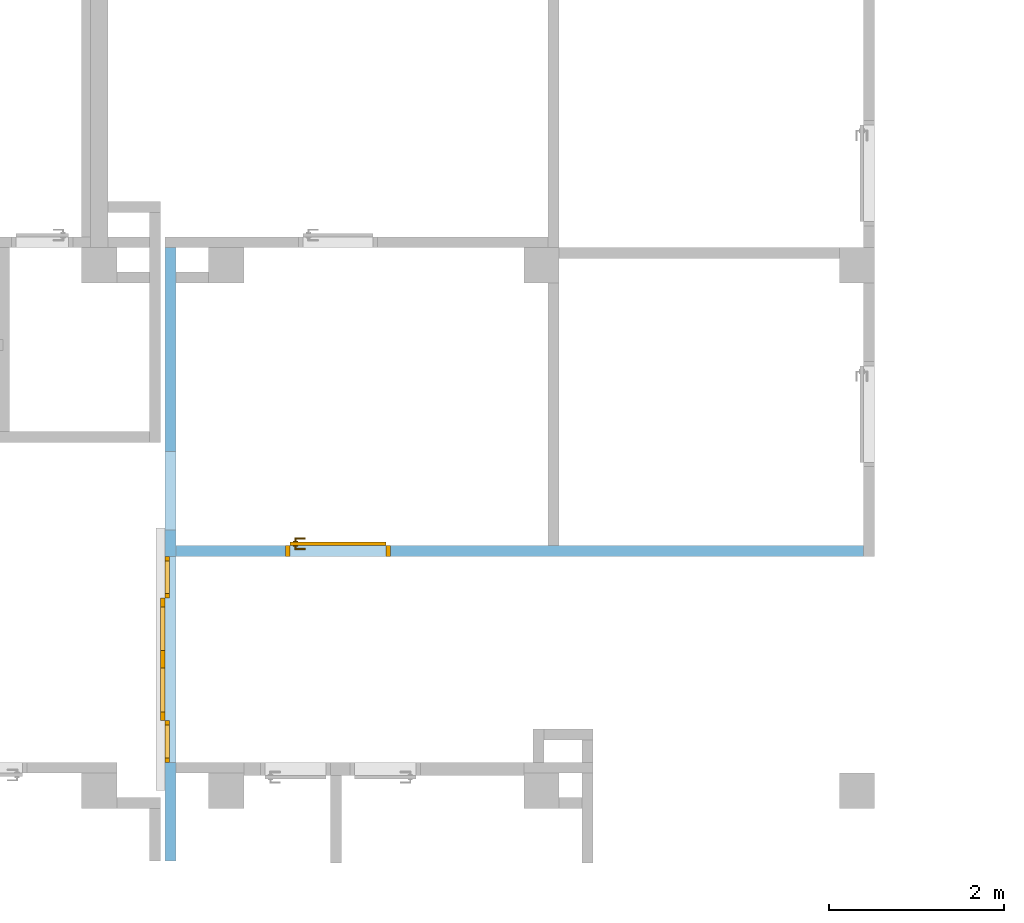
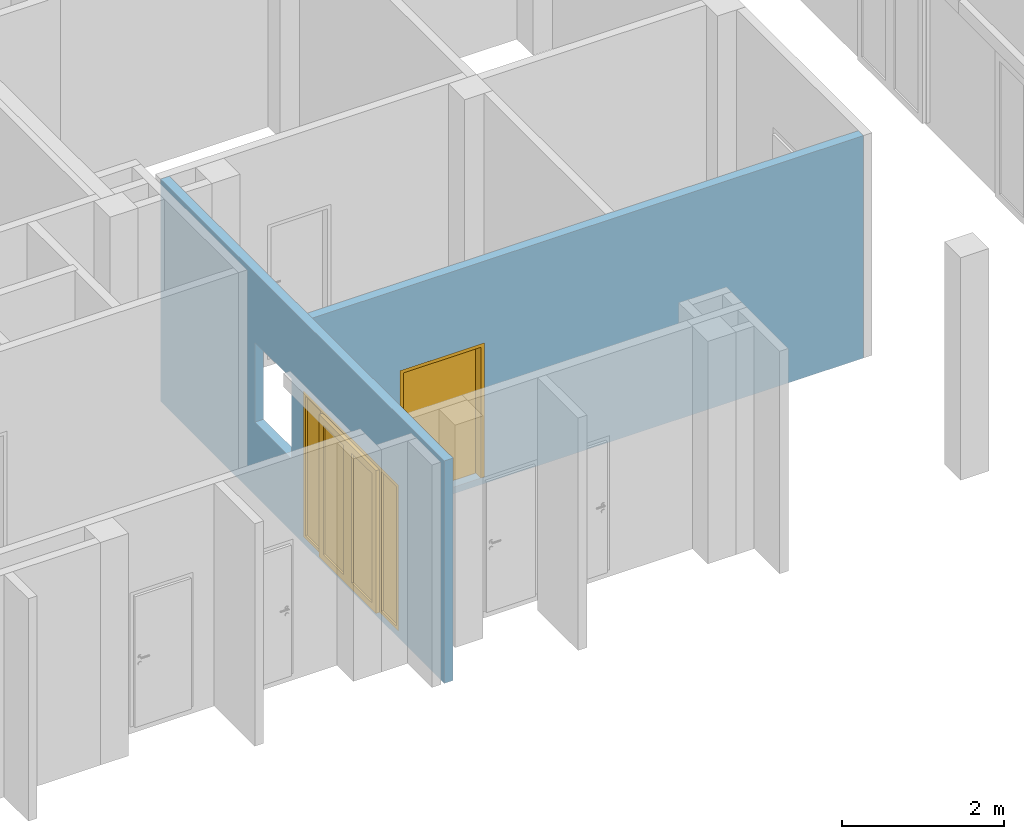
# One storey, part 30 of 37: 2 doors, 3 openings, plus 2 elements that do not belong to this part.
"""IFC4 building model written with IfcOpenShell, lengths in metres."""

from ifc_helpers import new_model, entity, si_unit, converted_unit, derived_unit, frame, frame_2d, origin, origin_with_axes, place, context, subcontext, project, spatial, polyline, rectangle, outline, extrude, closed_shell, open_shell, surface_model, source, transform, mapped, material, layer, layer_set, layer_usage, type_object, element, fill, save


model = new_model("IFC4")

# Units and contexts
model_context = context("Model", 3, precision=1e-05, world=origin())
body_context = subcontext(model_context, "Body", "Model", "MODEL_VIEW")
ifc_project = project(units=[si_unit("LENGTHUNIT", "METRE"), si_unit("AREAUNIT", "SQUARE_METRE"), si_unit("VOLUMEUNIT", "CUBIC_METRE"), si_unit("MASSUNIT", "GRAM", prefix="KILO"), converted_unit("PLANEANGLEUNIT", "DEGREE", entity("IfcPlaneAngleMeasure", 0.0174532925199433), si_unit("PLANEANGLEUNIT", "RADIAN"), dimensions=[0, 0, 0, 0, 0, 0, 0]), derived_unit("THERMALTRANSMITTANCEUNIT", [(si_unit("POWERUNIT", "WATT"), 1), (si_unit("THERMODYNAMICTEMPERATUREUNIT", "KELVIN"), -1), (si_unit("LENGTHUNIT", "METRE"), -2)]), derived_unit("VOLUMETRICFLOWRATEUNIT", [(si_unit("LENGTHUNIT", "METRE"), 3), (converted_unit("TIMEUNIT", "hour", entity("IfcTimeMeasure", 3600.0), si_unit("TIMEUNIT", "SECOND"), dimensions=[0, 0, 1, 0, 0, 0, 0]), -1), (si_unit("LENGTHUNIT", "METRE"), -1)])], contexts=[model_context])

# Site, building, storey
site_placement = place(None, origin())
site = spatial("IfcSite", under=ifc_project, at=site_placement, Name="3. ASŘ", CompositionType="ELEMENT")
building_placement = place(site_placement, origin())
building = spatial("IfcBuilding", under=site, at=building_placement, Name="Pavilon B", CompositionType="ELEMENT")
storey_placement = place(building_placement, origin())
storey = spatial("IfcBuildingStorey", under=building, at=storey_placement, Name="Půdorys 1.NP", CompositionType="ELEMENT", Elevation=0.0)

# Wall, opening, door
ifc_material_1 = material(Name="ZDIVO Z CDm")
ifc_layer_1 = layer(ifc_material_1, 0.125)
ifc_layer_set_1 = layer_set([ifc_layer_1])
ifc_layer_usage_1 = layer_usage(ifc_layer_set_1, "AXIS2", "POSITIVE", 0.0)
wall_1_placement = place(storey_placement, frame((40.525, -24.8, -0.1), z_axis=(0.0, 0.0, 1.0), x_axis=(-1.0, 0.0, 0.0)))
wall_1 = element("IfcWall", 1, at=wall_1_placement, inside=storey, material=ifc_layer_usage_1, Name="ZDIVO Z CDm", context=body_context, shape_type="SweptSolid", body=[
    extrude(rectangle(XDim=7.85, YDim=0.125, at=frame_2d((3.925, 0.0625), x_axis=(1.0, 0.0))), origin_with_axes(), (0.0, 0.0, 1.0), 3.35),
])
opening_1_placement = place(wall_1_placement, frame((5.4, 0.0, 0.1), z_axis=(0.0, 1.0, 0.0), x_axis=(0.0, 0.0, 1.0)))
opening_1 = element("IfcOpeningElement", 2, at=opening_1_placement, cuts=wall_1, Name="Dveřní otvor", ObjectType="Opening", context=body_context, shape_type="SweptSolid", body=[
    extrude(outline(polyline([(0.0, 1.2), (2.02, 1.2), (2.02, 0.0), (0.0, 0.0), (0.0, 1.2)])), origin_with_axes(), (0.0, 0.0, 1.0), 0.125),
])
door_type_1 = type_object("IfcDoorType", Name="D101", OperationType="NOTDEFINED", ParameterTakesPrecedence=False, PredefinedType="DOOR")
shared_shape_1 = source(origin_with_axes(), body_context, "Body", "SurfaceModel", [
    surface_model("IfcShellBasedSurfaceModel", [(0.0, 0.125, 2.02), (0.0, 0.125, -7.65404249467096e-18), (0.05, 0.125, -7.65404249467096e-18), (0.05, 0.125, 2.02), (0.0, 0.0, 7.65404249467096e-18), (0.0, 2.41584530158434e-16, 2.02), (0.05, 2.41584530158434e-16, 2.02), (0.05, 0.0, 7.65404249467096e-18)], [closed_shell([[[0, 1, 2, 3]], [[4, 5, 6, 7]], [[1, 0, 5, 4]], [[2, 1, 4, 7]], [[3, 2, 7, 6]], [[0, 3, 6, 5]]], orient=[[False], [False], [False], [False], [False], [False]])]),
    surface_model("IfcShellBasedSurfaceModel", [(1.15, 0.125, 2.02), (1.15, 0.125, -7.65404249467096e-18), (1.2, 0.125, -7.65404249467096e-18), (1.2, 0.125, 2.02), (1.15, 0.0, 7.65404249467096e-18), (1.15, 2.41584530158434e-16, 2.02), (1.2, 2.41584530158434e-16, 2.02), (1.2, 0.0, 7.65404249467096e-18)], [closed_shell([[[0, 1, 2, 3]], [[4, 5, 6, 7]], [[1, 0, 5, 4]], [[2, 1, 4, 7]], [[3, 2, 7, 6]], [[0, 3, 6, 5]]], orient=[[False], [False], [False], [False], [False], [False]])]),
    surface_model("IfcShellBasedSurfaceModel", [(0.05, 0.125, 2.02), (0.05, 0.125, 1.97), (1.15, 0.125, 1.97), (1.15, 0.125, 2.02), (0.05, 2.41584530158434e-16, 1.97), (0.05, 2.41584530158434e-16, 2.02), (1.15, 2.41584530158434e-16, 2.02), (1.15, 2.41584530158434e-16, 1.97)], [closed_shell([[[0, 1, 2, 3]], [[4, 5, 6, 7]], [[1, 0, 5, 4]], [[2, 1, 4, 7]], [[3, 2, 7, 6]], [[0, 3, 6, 5]]], orient=[[False], [False], [False], [False], [False], [False]])]),
    surface_model("IfcShellBasedSurfaceModel", [(0.05, 0.165, 1.97), (0.05, 0.165, -1.25526296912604e-17), (1.15, 0.165, -1.25526296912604e-17), (1.15, 0.165, 1.97), (0.05, 0.125, -7.65404249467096e-18), (0.05, 0.125, 1.97), (1.15, 0.125, 1.97), (1.15, 0.125, -7.65404249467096e-18)], [closed_shell([[[0, 1, 2, 3]], [[4, 5, 6, 7]], [[1, 0, 5, 4]], [[2, 1, 4, 7]], [[3, 2, 7, 6]], [[0, 3, 6, 5]]], orient=[[False], [False], [False], [False], [False], [False]])]),
    surface_model("IfcShellBasedSurfaceModel", [(1.10881569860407, 0.125, 0.93625), (1.1125, 0.125, 0.95), (1.10881569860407, 0.125, 0.96375), (1.09875, 0.125, 0.973815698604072), (1.085, 0.125, 0.9775), (1.07125, 0.125, 0.973815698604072), (1.06118430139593, 0.125, 0.96375), (1.0575, 0.125, 0.95), (1.06118430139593, 0.125, 0.93625), (1.07125, 0.125, 0.926184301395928), (1.085, 0.125, 0.9225), (1.09875, 0.125, 0.926184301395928), (1.1125, 0.1125, 0.95), (1.10881569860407, 0.1125, 0.93625), (1.09875, 0.1125, 0.926184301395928), (1.085, 0.1125, 0.9225), (1.07125, 0.1125, 0.926184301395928), (1.06118430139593, 0.1125, 0.93625), (1.0575, 0.1125, 0.95), (1.06118430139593, 0.1125, 0.96375), (1.07125, 0.1125, 0.973815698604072), (1.085, 0.1125, 0.9775), (1.09875, 0.1125, 0.973815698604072), (1.10881569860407, 0.1125, 0.96375)], [closed_shell([[[0, 1, 2, 3, 4, 5, 6, 7, 8, 9, 10, 11]], [[12, 13, 14, 15, 16, 17, 18, 19, 20, 21, 22, 23]], [[1, 0, 13, 12]], [[2, 1, 12, 23]], [[3, 2, 23, 22]], [[4, 3, 22, 21]], [[5, 4, 21, 20]], [[6, 5, 20, 19]], [[7, 6, 19, 18]], [[8, 7, 18, 17]], [[9, 8, 17, 16]], [[10, 9, 16, 15]], [[11, 10, 15, 14]], [[0, 11, 14, 13]]], orient=[[False], [False], [False], [False], [False], [False], [False], [False], [False], [False], [False], [False], [False], [False]])]),
    surface_model("IfcShellBasedSurfaceModel", [(1.10881569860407, 0.125, 1.03625), (1.1125, 0.125, 1.05), (1.10881569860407, 0.125, 1.06375), (1.09875, 0.125, 1.07381569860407), (1.085, 0.125, 1.0775), (1.07125, 0.125, 1.07381569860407), (1.06118430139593, 0.125, 1.06375), (1.0575, 0.125, 1.05), (1.06118430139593, 0.125, 1.03625), (1.07125, 0.125, 1.02618430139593), (1.085, 0.125, 1.0225), (1.09875, 0.125, 1.02618430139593), (1.1125, 0.1125, 1.05), (1.10881569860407, 0.1125, 1.03625), (1.09875, 0.1125, 1.02618430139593), (1.085, 0.1125, 1.0225), (1.07125, 0.1125, 1.02618430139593), (1.06118430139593, 0.1125, 1.03625), (1.0575, 0.1125, 1.05), (1.06118430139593, 0.1125, 1.06375), (1.07125, 0.1125, 1.07381569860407), (1.085, 0.1125, 1.0775), (1.09875, 0.1125, 1.07381569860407), (1.10881569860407, 0.1125, 1.06375)], [closed_shell([[[0, 1, 2, 3, 4, 5, 6, 7, 8, 9, 10, 11]], [[12, 13, 14, 15, 16, 17, 18, 19, 20, 21, 22, 23]], [[1, 0, 13, 12]], [[2, 1, 12, 23]], [[3, 2, 23, 22]], [[4, 3, 22, 21]], [[5, 4, 21, 20]], [[6, 5, 20, 19]], [[7, 6, 19, 18]], [[8, 7, 18, 17]], [[9, 8, 17, 16]], [[10, 9, 16, 15]], [[11, 10, 15, 14]], [[0, 11, 14, 13]]], orient=[[False], [False], [False], [False], [False], [False], [False], [False], [False], [False], [False], [False], [False], [False]])]),
    surface_model("IfcShellBasedSurfaceModel", [(1.085, 0.125, 1.06), (1.08, 0.125, 1.05866025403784), (1.07633974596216, 0.125, 1.055), (1.075, 0.125, 1.05), (1.07633974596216, 0.125, 1.045), (1.08, 0.125, 1.04133974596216), (1.085, 0.125, 1.04), (1.09, 0.125, 1.04133974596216), (1.09366025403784, 0.125, 1.045), (1.095, 0.125, 1.05), (1.09366025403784, 0.125, 1.055), (1.09, 0.125, 1.05866025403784), (1.09, 0.0800000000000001, 1.05866025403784), (1.085, 0.0850000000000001, 1.06), (1.09366025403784, 0.0763397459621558, 1.055), (1.095, 0.0750000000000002, 1.05), (1.09366025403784, 0.0763397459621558, 1.045), (1.09, 0.0800000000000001, 1.04133974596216), (1.085, 0.0850000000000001, 1.04), (1.08, 0.0900000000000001, 1.04133974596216), (1.07633974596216, 0.0936602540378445, 1.045), (1.075, 0.0950000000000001, 1.05), (1.07633974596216, 0.0936602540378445, 1.055), (1.08, 0.0900000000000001, 1.05866025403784), (0.97, 0.0800000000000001, 1.05866025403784), (0.97, 0.0850000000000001, 1.06), (0.97, 0.0763397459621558, 1.055), (0.97, 0.0750000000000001, 1.05), (0.97, 0.0763397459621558, 1.045), (0.97, 0.0800000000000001, 1.04133974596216), (0.97, 0.0850000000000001, 1.04), (0.97, 0.0900000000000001, 1.04133974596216), (0.97, 0.0936602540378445, 1.045), (0.97, 0.0950000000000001, 1.05), (0.97, 0.0936602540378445, 1.055), (0.97, 0.0900000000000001, 1.05866025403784)], [open_shell([[[0, 1, 2, 3, 4, 5, 6, 7, 8, 9, 10, 11]], [[0, 11, 12, 13]], [[11, 10, 14, 12]], [[10, 9, 15, 14]], [[9, 8, 16, 15]], [[8, 7, 17, 16]], [[7, 6, 18, 17]], [[6, 5, 19, 18]], [[5, 4, 20, 19]], [[4, 3, 21, 20]], [[3, 2, 22, 21]], [[2, 1, 23, 22]], [[1, 0, 13, 23]], [[13, 12, 24, 25]], [[12, 14, 26, 24]], [[14, 15, 27, 26]], [[15, 16, 28, 27]], [[16, 17, 29, 28]], [[17, 18, 30, 29]], [[18, 19, 31, 30]], [[19, 20, 32, 31]], [[20, 21, 33, 32]], [[21, 22, 34, 33]], [[22, 23, 35, 34]], [[23, 13, 25, 35]]], orient=[[False], [False], [False], [False], [False], [False], [False], [False], [False], [False], [False], [False], [False], [False], [False], [False], [False], [False], [False], [False], [False], [False], [False], [False], [False]])]),
    surface_model("IfcShellBasedSurfaceModel", [(1.10881569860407, 0.165, 0.93625), (1.09875, 0.165, 0.926184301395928), (1.085, 0.165, 0.9225), (1.07125, 0.165, 0.926184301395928), (1.06118430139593, 0.165, 0.93625), (1.0575, 0.165, 0.95), (1.06118430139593, 0.165, 0.96375), (1.07125, 0.165, 0.973815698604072), (1.085, 0.165, 0.9775), (1.09875, 0.165, 0.973815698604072), (1.10881569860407, 0.165, 0.96375), (1.1125, 0.165, 0.95), (1.1125, 0.1775, 0.95), (1.10881569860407, 0.1775, 0.96375), (1.09875, 0.1775, 0.973815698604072), (1.085, 0.1775, 0.9775), (1.07125, 0.1775, 0.973815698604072), (1.06118430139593, 0.1775, 0.96375), (1.0575, 0.1775, 0.95), (1.06118430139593, 0.1775, 0.93625), (1.07125, 0.1775, 0.926184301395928), (1.085, 0.1775, 0.9225), (1.09875, 0.1775, 0.926184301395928), (1.10881569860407, 0.1775, 0.93625)], [closed_shell([[[0, 1, 2, 3, 4, 5, 6, 7, 8, 9, 10, 11]], [[12, 13, 14, 15, 16, 17, 18, 19, 20, 21, 22, 23]], [[11, 12, 23, 0]], [[10, 13, 12, 11]], [[9, 14, 13, 10]], [[8, 15, 14, 9]], [[7, 16, 15, 8]], [[6, 17, 16, 7]], [[5, 18, 17, 6]], [[4, 19, 18, 5]], [[3, 20, 19, 4]], [[2, 21, 20, 3]], [[1, 22, 21, 2]], [[0, 23, 22, 1]]], orient=[[False], [False], [False], [False], [False], [False], [False], [False], [False], [False], [False], [False], [False], [False]])]),
    surface_model("IfcShellBasedSurfaceModel", [(1.10881569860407, 0.165, 1.03625), (1.09875, 0.165, 1.02618430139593), (1.085, 0.165, 1.0225), (1.07125, 0.165, 1.02618430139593), (1.06118430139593, 0.165, 1.03625), (1.0575, 0.165, 1.05), (1.06118430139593, 0.165, 1.06375), (1.07125, 0.165, 1.07381569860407), (1.085, 0.165, 1.0775), (1.09875, 0.165, 1.07381569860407), (1.10881569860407, 0.165, 1.06375), (1.1125, 0.165, 1.05), (1.1125, 0.1775, 1.05), (1.10881569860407, 0.1775, 1.06375), (1.09875, 0.1775, 1.07381569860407), (1.085, 0.1775, 1.0775), (1.07125, 0.1775, 1.07381569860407), (1.06118430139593, 0.1775, 1.06375), (1.0575, 0.1775, 1.05), (1.06118430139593, 0.1775, 1.03625), (1.07125, 0.1775, 1.02618430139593), (1.085, 0.1775, 1.0225), (1.09875, 0.1775, 1.02618430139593), (1.10881569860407, 0.1775, 1.03625)], [closed_shell([[[0, 1, 2, 3, 4, 5, 6, 7, 8, 9, 10, 11]], [[12, 13, 14, 15, 16, 17, 18, 19, 20, 21, 22, 23]], [[11, 12, 23, 0]], [[10, 13, 12, 11]], [[9, 14, 13, 10]], [[8, 15, 14, 9]], [[7, 16, 15, 8]], [[6, 17, 16, 7]], [[5, 18, 17, 6]], [[4, 19, 18, 5]], [[3, 20, 19, 4]], [[2, 21, 20, 3]], [[1, 22, 21, 2]], [[0, 23, 22, 1]]], orient=[[False], [False], [False], [False], [False], [False], [False], [False], [False], [False], [False], [False], [False], [False]])]),
    surface_model("IfcShellBasedSurfaceModel", [(1.085, 0.165, 1.06), (1.09, 0.165, 1.05866025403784), (1.09366025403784, 0.165, 1.055), (1.095, 0.165, 1.05), (1.09366025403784, 0.165, 1.045), (1.09, 0.165, 1.04133974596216), (1.085, 0.165, 1.04), (1.08, 0.165, 1.04133974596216), (1.07633974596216, 0.165, 1.045), (1.075, 0.165, 1.05), (1.07633974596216, 0.165, 1.055), (1.08, 0.165, 1.05866025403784), (1.085, 0.205, 1.06), (1.09, 0.21, 1.05866025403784), (1.09366025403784, 0.213660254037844, 1.055), (1.095, 0.215, 1.05), (1.09366025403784, 0.213660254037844, 1.045), (1.09, 0.21, 1.04133974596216), (1.085, 0.205, 1.04), (1.08, 0.2, 1.04133974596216), (1.07633974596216, 0.196339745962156, 1.045), (1.075, 0.195, 1.05), (1.07633974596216, 0.196339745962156, 1.055), (1.08, 0.2, 1.05866025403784), (0.97, 0.205, 1.06), (0.97, 0.21, 1.05866025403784), (0.97, 0.213660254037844, 1.055), (0.97, 0.215, 1.05), (0.97, 0.213660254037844, 1.045), (0.97, 0.21, 1.04133974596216), (0.97, 0.205, 1.04), (0.97, 0.2, 1.04133974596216), (0.97, 0.196339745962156, 1.045), (0.97, 0.195, 1.05), (0.97, 0.196339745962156, 1.055), (0.97, 0.2, 1.05866025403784)], [open_shell([[[0, 1, 2, 3, 4, 5, 6, 7, 8, 9, 10, 11]], [[0, 12, 13, 1]], [[1, 13, 14, 2]], [[2, 14, 15, 3]], [[3, 15, 16, 4]], [[4, 16, 17, 5]], [[5, 17, 18, 6]], [[6, 18, 19, 7]], [[7, 19, 20, 8]], [[8, 20, 21, 9]], [[9, 21, 22, 10]], [[10, 22, 23, 11]], [[11, 23, 12, 0]], [[12, 24, 25, 13]], [[13, 25, 26, 14]], [[14, 26, 27, 15]], [[15, 27, 28, 16]], [[16, 28, 29, 17]], [[17, 29, 30, 18]], [[18, 30, 31, 19]], [[19, 31, 32, 20]], [[20, 32, 33, 21]], [[21, 33, 34, 22]], [[22, 34, 35, 23]], [[23, 35, 24, 12]]], orient=[[False], [False], [False], [False], [False], [False], [False], [False], [False], [False], [False], [False], [False], [False], [False], [False], [False], [False], [False], [False], [False], [False], [False], [False], [False]])]),
])
door_1_placement = place(opening_1_placement, frame((0.0, 0.0, 0.125), z_axis=(1.0, 0.0, 0.0), x_axis=(0.0, 1.0, -2.44929359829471e-16)))
door_1 = element("IfcDoor", 3, at=door_1_placement, inside=storey, type_object=door_type_1, Name="D101", OverallHeight=2.02, OverallWidth=1.2, context=body_context, shape_type="MappedRepresentation", body=[
    mapped(shared_shape_1, transform((0.0, 0.0, 0.0), x_axis=(1.0, 0.0, 0.0), y_axis=(0.0, -1.0, 0.0), z_axis=(0.0, 0.0, 1.0), scale=1.0)),
])
fill(opening_1, door_1)

# Wall, openings, door
ifc_material_2 = material(Name="ZDIVO Z CDm")
ifc_layer_2 = layer(ifc_material_2, 0.125)
ifc_layer_set_2 = layer_set([ifc_layer_2])
ifc_layer_usage_2 = layer_usage(ifc_layer_set_2, "AXIS2", "POSITIVE", 0.0)
wall_2_placement = place(storey_placement, frame((32.675, -28.4, -0.1), z_axis=(0.0, 0.0, 1.0), x_axis=(0.0, 1.0, 0.0)))
wall_2 = element("IfcWall", 4, at=wall_2_placement, inside=storey, material=ifc_layer_usage_2, Name="ZDIVO Z CDm", context=body_context, shape_type="SweptSolid", body=[
    extrude(rectangle(XDim=7.0, YDim=0.125, at=frame_2d((3.5, 0.0625), x_axis=(1.0, 0.0))), origin_with_axes(), (0.0, 0.0, 1.0), 3.35),
])
opening_2_placement = place(wall_2_placement, frame((4.675, 0.125, 1.1), z_axis=(0.0, -1.0, 0.0), x_axis=(0.0, 0.0, 1.0)))
element("IfcOpeningElement", 5, at=opening_2_placement, cuts=wall_2, Name="Okenní otvor", ObjectType="Opening", context=body_context, shape_type="SweptSolid", body=[
    extrude(outline(polyline([(0.0, 0.9), (1.2, 0.9), (1.2, 0.0), (0.0, 0.0), (0.0, 0.9)])), origin_with_axes(), (0.0, 0.0, 1.0), 0.125),
])
opening_3_placement = place(wall_2_placement, frame((3.47500000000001, 0.125, 0.1), z_axis=(0.0, -1.0, 0.0), x_axis=(0.0, 0.0, 1.0)))
opening_3 = element("IfcOpeningElement", 6, at=opening_3_placement, cuts=wall_2, Name="Dveřní otvor", ObjectType="Opening", context=body_context, shape_type="SweptSolid", body=[
    extrude(outline(polyline([(0.0, 2.35), (2.2, 2.35), (2.2, 0.0), (0.0, 0.0), (0.0, 2.35)])), origin_with_axes(), (0.0, 0.0, 1.0), 0.125),
])
door_type_2 = type_object("IfcDoorType", Name="D401", OperationType="NOTDEFINED", ParameterTakesPrecedence=False, PredefinedType="DOOR")
shared_shape_2 = source(origin_with_axes(), body_context, "Body", "SurfaceModel", [
    surface_model("IfcShellBasedSurfaceModel", [(0.0, 0.0500000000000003, 2.2), (0.0, 0.05, 1.11492377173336e-17), (0.05, 0.05, 1.11492377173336e-17), (0.05, 0.0500000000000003, 2.2), (0.0, 0.0, 1.72724717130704e-17), (0.0, 2.70006239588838e-16, 2.2), (0.05, 2.70006239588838e-16, 2.2), (0.05, 0.0, 1.72724717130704e-17)], [closed_shell([[[0, 1, 2, 3]], [[4, 5, 6, 7]], [[1, 0, 5, 4]], [[2, 1, 4, 7]], [[3, 2, 7, 6]], [[0, 3, 6, 5]]], orient=[[False], [False], [False], [False], [False], [False]])]),
    surface_model("IfcShellBasedSurfaceModel", [(2.3, 0.0500000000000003, 2.2), (2.3, 0.05, 1.11492377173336e-17), (2.35, 0.05, 1.11492377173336e-17), (2.35, 0.0500000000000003, 2.2), (2.3, 0.0, 1.72724717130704e-17), (2.3, 2.70006239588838e-16, 2.2), (2.35, 2.70006239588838e-16, 2.2), (2.35, 0.0, 1.72724717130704e-17)], [closed_shell([[[0, 1, 2, 3]], [[4, 5, 6, 7]], [[1, 0, 5, 4]], [[2, 1, 4, 7]], [[3, 2, 7, 6]], [[0, 3, 6, 5]]], orient=[[False], [False], [False], [False], [False], [False]])]),
    surface_model("IfcShellBasedSurfaceModel", [(0.05, 0.0500000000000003, 2.2), (0.05, 0.0500000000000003, 2.15), (2.3, 0.0500000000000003, 2.15), (2.3, 0.0500000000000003, 2.2), (0.05, 2.62900812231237e-16, 2.15), (0.05, 2.70006239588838e-16, 2.2), (2.3, 2.70006239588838e-16, 2.2), (2.3, 2.62900812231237e-16, 2.15)], [closed_shell([[[0, 1, 2, 3]], [[4, 5, 6, 7]], [[1, 0, 5, 4]], [[2, 1, 4, 7]], [[3, 2, 7, 6]], [[0, 3, 6, 5]]], orient=[[False], [False], [False], [False], [False], [False]])]),
    surface_model("IfcShellBasedSurfaceModel", [(0.425, 0.0500000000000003, 2.15), (0.425, 0.05, 1.11492377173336e-17), (0.475, 0.05, 1.11492377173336e-17), (0.475, 0.0500000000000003, 2.15), (0.425, 0.0, 1.72724717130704e-17), (0.425, 2.62900812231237e-16, 2.15), (0.475, 2.62900812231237e-16, 2.15), (0.475, 0.0, 1.72724717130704e-17)], [closed_shell([[[0, 1, 2, 3]], [[4, 5, 6, 7]], [[1, 0, 5, 4]], [[2, 1, 4, 7]], [[3, 2, 7, 6]], [[0, 3, 6, 5]]], orient=[[False], [False], [False], [False], [False], [False]])]),
    surface_model("IfcShellBasedSurfaceModel", [(1.875, 0.0500000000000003, 2.15), (1.875, 0.05, 1.11492377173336e-17), (1.925, 0.05, 1.11492377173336e-17), (1.925, 0.0500000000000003, 2.15), (1.875, 0.0, 1.72724717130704e-17), (1.875, 2.62900812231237e-16, 2.15), (1.925, 2.62900812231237e-16, 2.15), (1.925, 0.0, 1.72724717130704e-17)], [closed_shell([[[0, 1, 2, 3]], [[4, 5, 6, 7]], [[1, 0, 5, 4]], [[2, 1, 4, 7]], [[3, 2, 7, 6]], [[0, 3, 6, 5]]], orient=[[False], [False], [False], [False], [False], [False]])]),
    surface_model("IfcShellBasedSurfaceModel", [(0.05, 0.05, 0.05), (0.05, 0.05, 1.11492377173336e-17), (0.425, 0.05, 1.11492377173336e-17), (0.425, 0.05, 0.05), (0.05, 0.0, 1.72724717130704e-17), (0.05, 7.105427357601e-18, 0.05), (0.425, 7.105427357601e-18, 0.05), (0.425, 0.0, 1.72724717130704e-17)], [closed_shell([[[0, 1, 2, 3]], [[4, 5, 6, 7]], [[1, 0, 5, 4]], [[2, 1, 4, 7]], [[3, 2, 7, 6]], [[0, 3, 6, 5]]], orient=[[False], [False], [False], [False], [False], [False]])]),
    surface_model("IfcShellBasedSurfaceModel", [(1.925, 0.05, 0.05), (1.925, 0.05, 1.11492377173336e-17), (2.3, 0.05, 1.11492377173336e-17), (2.3, 0.05, 0.05), (1.925, 0.0, 1.72724717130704e-17), (1.925, 7.105427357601e-18, 0.05), (2.3, 7.105427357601e-18, 0.05), (2.3, 0.0, 1.72724717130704e-17)], [closed_shell([[[0, 1, 2, 3]], [[4, 5, 6, 7]], [[1, 0, 5, 4]], [[2, 1, 4, 7]], [[3, 2, 7, 6]], [[0, 3, 6, 5]]], orient=[[False], [False], [False], [False], [False], [False]])]),
    surface_model("IfcShellBasedSurfaceModel", [(0.475, 0.1, 2.15), (0.475, 0.1, 5.02600372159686e-18), (0.575, 0.1, 5.02600372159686e-18), (0.575, 0.1, 2.15), (0.475, 0.05, 1.11492377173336e-17), (0.475, 0.0500000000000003, 2.15), (0.575, 0.0500000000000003, 2.15), (0.575, 0.05, 1.11492377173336e-17)], [closed_shell([[[0, 1, 2, 3]], [[4, 5, 6, 7]], [[1, 0, 5, 4]], [[2, 1, 4, 7]], [[3, 2, 7, 6]], [[0, 3, 6, 5]]], orient=[[False], [False], [False], [False], [False], [False]])]),
    surface_model("IfcShellBasedSurfaceModel", [(1.0745, 0.1, 2.15), (1.0745, 0.1, 5.02600372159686e-18), (1.1745, 0.1, 5.02600372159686e-18), (1.1745, 0.1, 2.15), (1.0745, 0.05, 1.11492377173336e-17), (1.0745, 0.0500000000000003, 2.15), (1.1745, 0.0500000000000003, 2.15), (1.1745, 0.05, 1.11492377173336e-17)], [closed_shell([[[0, 1, 2, 3]], [[4, 5, 6, 7]], [[1, 0, 5, 4]], [[2, 1, 4, 7]], [[3, 2, 7, 6]], [[0, 3, 6, 5]]], orient=[[False], [False], [False], [False], [False], [False]])]),
    surface_model("IfcShellBasedSurfaceModel", [(0.575, 0.1, 0.1), (0.575, 0.1, 5.02600372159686e-18), (1.0745, 0.1, 5.02600372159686e-18), (1.0745, 0.1, 0.1), (0.575, 0.05, 1.11492377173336e-17), (0.575, 0.05, 0.1), (1.0745, 0.05, 0.1), (1.0745, 0.05, 1.11492377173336e-17)], [closed_shell([[[0, 1, 2, 3]], [[4, 5, 6, 7]], [[1, 0, 5, 4]], [[2, 1, 4, 7]], [[3, 2, 7, 6]], [[0, 3, 6, 5]]], orient=[[False], [False], [False], [False], [False], [False]])]),
    surface_model("IfcShellBasedSurfaceModel", [(0.575, 0.1, 2.15), (0.575, 0.1, 2.05), (1.0745, 0.1, 2.05), (1.0745, 0.1, 2.15), (0.575, 0.0500000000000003, 2.05), (0.575, 0.0500000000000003, 2.15), (1.0745, 0.0500000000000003, 2.15), (1.0745, 0.0500000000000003, 2.05)], [closed_shell([[[0, 1, 2, 3]], [[4, 5, 6, 7]], [[1, 0, 5, 4]], [[2, 1, 4, 7]], [[3, 2, 7, 6]], [[0, 3, 6, 5]]], orient=[[False], [False], [False], [False], [False], [False]])]),
    surface_model("IfcShellBasedSurfaceModel", [(1.1755, 0.1, 2.15), (1.1755, 0.1, 5.02600372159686e-18), (1.2755, 0.1, 5.02600372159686e-18), (1.2755, 0.1, 2.15), (1.1755, 0.05, 1.11492377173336e-17), (1.1755, 0.0500000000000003, 2.15), (1.2755, 0.0500000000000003, 2.15), (1.2755, 0.05, 1.11492377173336e-17)], [closed_shell([[[0, 1, 2, 3]], [[4, 5, 6, 7]], [[1, 0, 5, 4]], [[2, 1, 4, 7]], [[3, 2, 7, 6]], [[0, 3, 6, 5]]], orient=[[False], [False], [False], [False], [False], [False]])]),
    surface_model("IfcShellBasedSurfaceModel", [(1.775, 0.1, 2.15), (1.775, 0.1, 5.02600372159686e-18), (1.875, 0.1, 5.02600372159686e-18), (1.875, 0.1, 2.15), (1.775, 0.05, 1.11492377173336e-17), (1.775, 0.0500000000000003, 2.15), (1.875, 0.0500000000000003, 2.15), (1.875, 0.05, 1.11492377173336e-17)], [closed_shell([[[0, 1, 2, 3]], [[4, 5, 6, 7]], [[1, 0, 5, 4]], [[2, 1, 4, 7]], [[3, 2, 7, 6]], [[0, 3, 6, 5]]], orient=[[False], [False], [False], [False], [False], [False]])]),
    surface_model("IfcShellBasedSurfaceModel", [(1.2755, 0.1, 0.1), (1.2755, 0.1, 5.02600372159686e-18), (1.775, 0.1, 5.02600372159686e-18), (1.775, 0.1, 0.1), (1.2755, 0.05, 1.11492377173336e-17), (1.2755, 0.05, 0.1), (1.775, 0.05, 0.1), (1.775, 0.05, 1.11492377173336e-17)], [closed_shell([[[0, 1, 2, 3]], [[4, 5, 6, 7]], [[1, 0, 5, 4]], [[2, 1, 4, 7]], [[3, 2, 7, 6]], [[0, 3, 6, 5]]], orient=[[False], [False], [False], [False], [False], [False]])]),
    surface_model("IfcShellBasedSurfaceModel", [(1.2755, 0.1, 2.15), (1.2755, 0.1, 2.05), (1.775, 0.1, 2.05), (1.775, 0.1, 2.15), (1.2755, 0.0500000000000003, 2.05), (1.2755, 0.0500000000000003, 2.15), (1.775, 0.0500000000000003, 2.15), (1.775, 0.0500000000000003, 2.05)], [closed_shell([[[0, 1, 2, 3]], [[4, 5, 6, 7]], [[1, 0, 5, 4]], [[2, 1, 4, 7]], [[3, 2, 7, 6]], [[0, 3, 6, 5]]], orient=[[False], [False], [False], [False], [False], [False]])]),
    surface_model("IfcShellBasedSurfaceModel", [(0.575, 0.075, 0.1), (1.0745, 0.075, 0.1), (1.0745, 0.0750000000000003, 2.05), (0.575, 0.0750000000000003, 2.05)], [open_shell([[[0, 1, 2, 3]]], orient=[[False]])]),
    surface_model("IfcShellBasedSurfaceModel", [(1.2755, 0.075, 0.1), (1.775, 0.075, 0.1), (1.775, 0.0750000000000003, 2.05), (1.2755, 0.0750000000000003, 2.05)], [open_shell([[[0, 1, 2, 3]]], orient=[[False]])]),
    surface_model("IfcShellBasedSurfaceModel", [(0.05, 0.025, 0.05), (0.425, 0.025, 0.05), (0.425, 0.0250000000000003, 2.15), (0.05, 0.0250000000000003, 2.15)], [open_shell([[[0, 1, 2, 3]]], orient=[[False]])]),
    surface_model("IfcShellBasedSurfaceModel", [(1.925, 0.025, 0.05), (2.3, 0.025, 0.05), (2.3, 0.0250000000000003, 2.15), (1.925, 0.0250000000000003, 2.15)], [open_shell([[[0, 1, 2, 3]]], orient=[[False]])]),
])
door_2_placement = place(opening_3_placement, frame((0.0, -7.27595761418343e-15, 0.0499999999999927), z_axis=(1.0, 0.0, 0.0), x_axis=(0.0, 1.0, -1.22464679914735e-16)))
door_2 = element("IfcDoor", 7, at=door_2_placement, inside=storey, type_object=door_type_2, Name="D401", OverallHeight=2.2, OverallWidth=2.35, context=body_context, shape_type="MappedRepresentation", body=[
    mapped(shared_shape_2, transform((0.0, 0.0, 0.0), x_axis=(1.0, 0.0, 0.0), y_axis=(0.0, -1.0, 0.0), z_axis=(0.0, 0.0, 1.0), scale=1.0)),
])
fill(opening_3, door_2)

save(model, "model.ifc")
